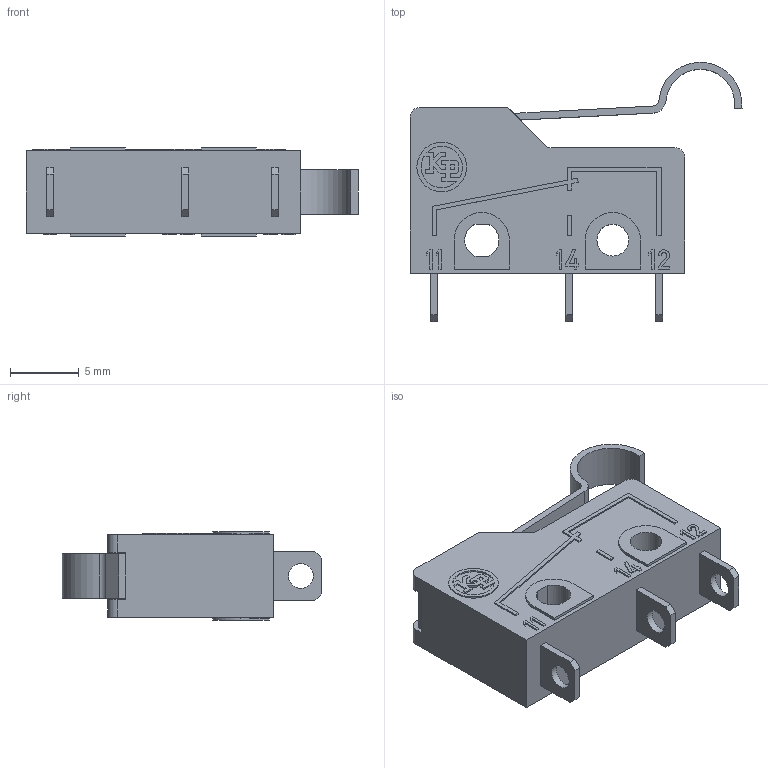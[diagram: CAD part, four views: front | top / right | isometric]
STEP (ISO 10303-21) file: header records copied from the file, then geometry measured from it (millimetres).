
FILE_DESCRIPTION(('Microrutor Subminiatura Alavanca c/ Roldana Simulada'),'2;1');
FILE_NAME('E:\WorkFolder\Bibl\3DWeb\kp_mm_mm$d1$s.stp','2011-12-13T09:00:51',('DIE'),('KAP'),'Autodesk Inventor 2011','Autodesk Inventor 2011','Direitos reservados. Proibido reproducao, cedencia ou revelacao de conteudo a terceiros, salvo com autorizacao.');
FILE_SCHEMA(('AUTOMOTIVE_DESIGN { 1 0 10303 214 1 1 1 1 }'));
Length unit declared in the file: millimetre
Products named in the file (1): Part4
Bounding box: 24.06 x 18.79 x 6.4 mm (x, y, z)
Volume: 1204.4 mm3; surface area: 1202.8 mm2
Topology: 1 solids, 1 shells, 270 faces, 735 edges, 489 vertices
Faces by surface type: plane 235, cylinder 35
Full cylindrical faces by diameter (mm): 1.8 x3, 2.3 x1, 3.6 x1
Entity records: 8718 total; most frequent: CARTESIAN_POINT 1489, ORIENTED_EDGE 1460, DIRECTION 1345, EDGE_CURVE 730, VECTOR 657, LINE 657, VERTEX_POINT 488, AXIS2_PLACEMENT_3D 344
